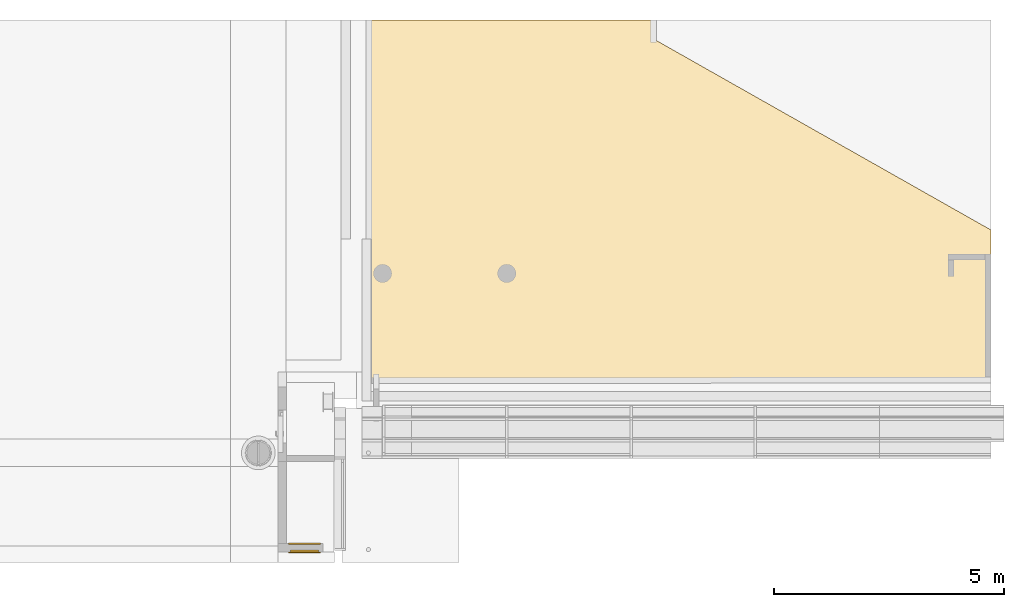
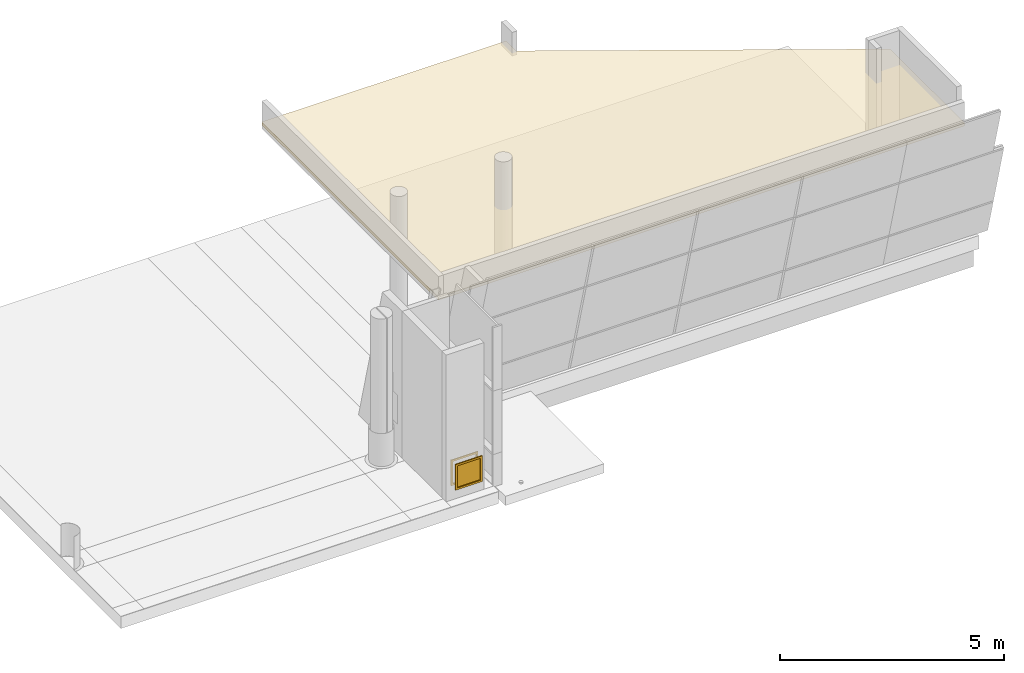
# One storey, part 6 of 10: 1 covering, 1 door.
"""IFC2X3 building model written with IfcOpenShell, lengths in millimetres."""

from ifc_helpers import new_model, entity, si_unit, converted_unit, derived_unit, direction, frame, frame_2d, origin, origin_with_axes, origin_2d_with_axis, place, context, subcontext, project, spatial, polyline, rectangle, outline, extrude, faceted_brep, source, transform, mapped, material, material_list, type_object, element, save


model = new_model("IFC2X3")

# Units and contexts
model_context = context("Model", 3, precision=0.01, world=origin(), true_north=direction((6.12303176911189e-17, 1.0)))
plan_context = context("Plan", 3, precision=1e-05, world=origin_with_axes())
body_context = subcontext(model_context, "Body", "Model", "MODEL_VIEW")
ifc_project = project(units=[converted_unit("PLANEANGLEUNIT", "DEGREE", entity("IfcPositiveLengthMeasure", 0.0174532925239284), si_unit("PLANEANGLEUNIT", "RADIAN"), dimensions=[0, 0, 0, 0, 0, 0, 0]), si_unit("AREAUNIT", "SQUARE_METRE"), si_unit("LENGTHUNIT", "METRE", prefix="MILLI"), si_unit("MASSUNIT", "GRAM", prefix="KILO"), si_unit("POWERUNIT", "WATT"), si_unit("PRESSUREUNIT", "PASCAL"), si_unit("FORCEUNIT", "NEWTON", prefix="KILO"), si_unit("ELECTRICVOLTAGEUNIT", "VOLT"), si_unit("ELECTRICCURRENTUNIT", "AMPERE"), si_unit("THERMODYNAMICTEMPERATUREUNIT", "DEGREE_CELSIUS"), si_unit("TIMEUNIT", "SECOND"), si_unit("VOLUMEUNIT", "CUBIC_METRE"), derived_unit("LINEARVELOCITYUNIT", [(si_unit("LENGTHUNIT", "METRE"), 1), (si_unit("TIMEUNIT", "SECOND"), -1)]), derived_unit("VOLUMETRICFLOWRATEUNIT", [(si_unit("VOLUMEUNIT", "CUBIC_METRE"), 1), (si_unit("TIMEUNIT", "SECOND"), -1)]), derived_unit("THERMALTRANSMITTANCEUNIT", [(si_unit("POWERUNIT", "WATT"), 1), (si_unit("THERMODYNAMICTEMPERATUREUNIT", "KELVIN"), -1), (si_unit("AREAUNIT", "SQUARE_METRE"), -1)]), derived_unit("SOUNDPRESSUREUNIT", [(si_unit("PRESSUREUNIT", "PASCAL"), 1)])], contexts=[model_context, plan_context])

# Site, building, storey
site_placement = place(None, frame((2314154.5009392, 1029894.10887124, 0.0), z_axis=(0.0, 0.0, 1.0), x_axis=(1.0, 0.0, 0.0)))
site = spatial("IfcSite", under=ifc_project, at=site_placement, Name="Default", CompositionType="ELEMENT")
building_placement = place(site_placement, origin_with_axes())
building = spatial("IfcBuilding", under=site, at=building_placement, CompositionType="ELEMENT")
storey_placement = place(building_placement, frame((0.0, 0.0, 9320.0), z_axis=(0.0, 0.0, 1.0), x_axis=(1.0, 0.0, 0.0)))
storey = spatial("IfcBuildingStorey", under=building, at=storey_placement, Name="H01 Hovedetasje", CompositionType="ELEMENT", Elevation=9320.0)

# Door
ifc_material_1 = material(Name="Door - Frame")
ifc_material_2 = material(Name="Door - Panel")
ifc_material_list = material_list([ifc_material_1, ifc_material_2])
door_style = type_object("IfcDoorStyle", Name="Værnes_DB INT-Tilkomst Luke_Stål:600x600mm 600mm OFG", ConstructionType="NOTDEFINED", OperationType="NOTDEFINED", ParameterTakesPrecedence=False, Sizeable=False, material=ifc_material_list)
shared_shape = source(origin(), body_context, "Body", "SweptSolid", [
    extrude(outline(polyline([(-280.0, -410.0), (420.0, -410.0), (420.0, 290.0), (-280.0, 290.0), (-280.0, 240.0), (-280.0, -410.0)]), holes=[polyline([(370.0, -360.0), (-230.0, -360.0), (-230.0, 240.0), (370.0, 240.0), (370.0, -360.0)])]), frame((360.0, -8.20000000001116, 230.0), z_axis=(0.0, 1.0, 0.0), x_axis=(0.0, 0.0, 1.0)), (0.0, 0.0, 1.0), 25.0000000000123),
    extrude(rectangle(XDim=50.0, YDim=300.0, at=origin_2d_with_axis()), frame((450.0, 161.0, 0.0), z_axis=(0.0, 0.0, 1.0), x_axis=(0.0, -1.0, 0.0)), (0.0, 0.0, 1.0), 600.0),
    extrude(rectangle(XDim=50.0, YDim=300.000000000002, at=frame_2d((0.0, -1.4210854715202e-14), x_axis=(1.0, 0.0))), frame((150.0, 161.0, 0.0), z_axis=(0.0, 0.0, 1.0), x_axis=(0.0, -1.0, 0.0)), (0.0, 0.0, 1.0), 600.000000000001),
    extrude(outline(polyline([(-280.0, -410.0), (420.0, -410.0), (420.0, 290.0), (-280.0, 290.0), (-280.0, 240.0), (-280.0, -410.0)]), holes=[polyline([(370.0, -360.0), (-230.0, -360.0), (-230.0, 240.0), (370.0, 240.0), (370.0, -360.0)])]), frame((360.0, 186.0, 230.0), z_axis=(0.0, 1.0, 0.0), x_axis=(0.0, 0.0, 1.0)), (0.0, 0.0, 1.0), 25.0),
])
door_placement = place(storey_placement, frame((102662.085595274, -41918.2714104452, 299.267442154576), z_axis=(0.0, 0.0, 1.0), x_axis=(-1.0, 0.0, 0.0)))
element("IfcDoor", 1, at=door_placement, inside=storey, type_object=door_style, material=ifc_material_list, Name="Værnes_DB INT-Tilkomst Luke_Stål:600x600mm 600mm OFG", ObjectType="Værnes_DB INT-Tilkomst Luke_Stål:600x600mm 600mm OFG", OverallHeight=600.0, OverallWidth=600.000000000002, context=body_context, shape_type="MappedRepresentation", body=[
    mapped(shared_shape, transform((0.0, 0.0, 0.0), scale=1.0)),
])

# Covering
covering_type = type_object("IfcCoveringType", Name="Compound Ceiling:Værnes Himling H-GIPS 01", PredefinedType="CEILING")
covering_placement = place(storey_placement, origin_with_axes())
element("IfcCovering", 2, at=covering_placement, inside=storey, type_object=covering_type, Name="Compound Ceiling:Værnes Himling H-GIPS 01", ObjectType="Compound Ceiling:Værnes Himling H-GIPS 01", PredefinedType="CEILING", context=body_context, shape_type="Brep", body=[
    faceted_brep([(110013.553038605, -30542.2006770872, 2683.0), (110013.553038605, -30542.2006770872, 2600.0), (110013.553038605, -30990.5928426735, 2600.0), (110013.553038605, -30990.5928426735, 2683.0), (103703.93394735, -30542.2006770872, 2600.0), (103703.93394735, -30542.2006770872, 2683.0), (103703.93394735, -38430.5156108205, 2683.0), (103703.93394735, -38430.5156108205, 2600.0), (117285.310898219, -38430.5156108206, 2683.0), (117285.310898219, -38430.5156108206, 2600.0), (117285.310898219, -35107.9446383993, 2600.0), (117285.310898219, -35107.9446383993, 2683.0)], [[[0, 1, 2, 3]], [[4, 5, 6, 7]], [[8, 9, 7, 6]], [[10, 11, 3, 2]], [[1, 4, 7, 9, 10, 2]], [[11, 8, 6, 5, 0, 3]], [[11, 10, 9, 8]], [[5, 4, 1, 0]]], orient=[[False], [False], [False], [False], [False], [False], [False], [False]]),
])

save(model, "model.ifc")
